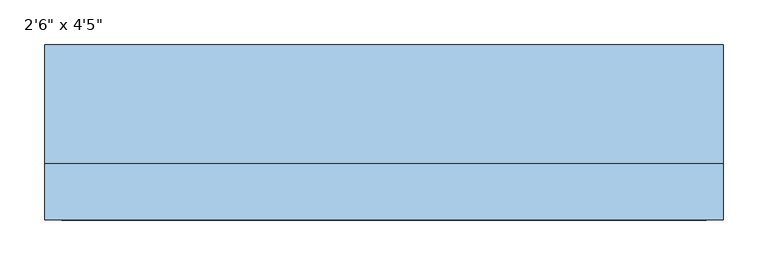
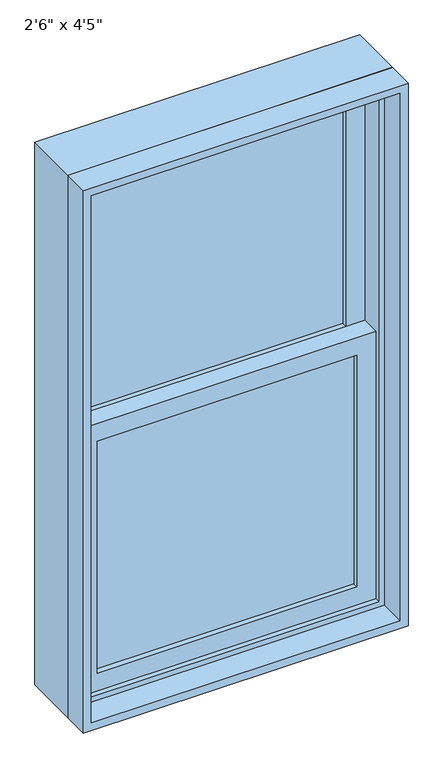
"""IFC4 building model written with IfcOpenShell, lengths in millimetres: window geometry."""

from ifc_helpers import new_model, si_unit, frame, origin, place, context, project, spatial, polyline, outline, extrude, source, transform, mapped, element, save


def window_a6173331(model_context):
    return source(origin(), model_context, "Body", "SweptSolid", [
        extrude(outline(polyline([(304.8, 19.05), (304.8, 12.7), (-304.8, 12.7), (-304.8, 19.05), (304.8, 19.05)])), frame((0.0, 0.0, 990.6), z_axis=(0.0, 0.0, 1.0), x_axis=(1.0, 0.0, 0.0)), (0.0, 0.0, 1.0), 574.675),
        extrude(outline(polyline([(-304.8, 6.35), (304.8, 6.35), (304.8, 0.0), (-304.8, 0.0), (-304.8, 6.35)])), frame((0.0, 0.0, 990.6), z_axis=(0.0, 0.0, 1.0), x_axis=(1.0, 0.0, 0.0)), (0.0, 0.0, 1.0), 574.675),
        extrude(outline(polyline([(304.8, 63.5), (304.8, 57.15), (-304.8, 57.15), (-304.8, 63.5), (304.8, 63.5)])), frame((0.0, 0.0, 1609.725), z_axis=(0.0, 0.0, 1.0), x_axis=(1.0, 0.0, 0.0)), (0.0, 0.0, 1.0), 574.675),
        extrude(outline(polyline([(-304.8, 50.8), (304.8, 50.8), (304.8, 44.45), (-304.8, 44.45), (-304.8, 50.8)])), frame((0.0, 0.0, 1609.725), z_axis=(0.0, 0.0, 1.0), x_axis=(1.0, 0.0, 0.0)), (0.0, 0.0, 1.0), 574.675),
        extrude(outline(polyline([(1609.725, -349.25), (946.15, -349.25), (946.15, 349.25), (1609.725, 349.25), (1609.725, -349.25)]), holes=[polyline([(1565.275, 304.8), (990.6, 304.8), (990.6, -304.8), (1565.275, -304.8), (1565.275, 304.8)])]), frame((0.0, -12.7, 0.0), z_axis=(0.0, 1.0, 0.0), x_axis=(0.0, 0.0, 1.0)), (0.0, 0.0, 1.0), 44.45),
        extrude(outline(polyline([(2228.85, -349.25), (1565.275, -349.25), (1565.275, 349.25), (2228.85, 349.25), (2228.85, -349.25)]), holes=[polyline([(2184.4, 304.8), (1609.725, 304.8), (1609.725, -304.8), (2184.4, -304.8), (2184.4, 304.8)])]), frame((0.0, 31.75, 0.0), z_axis=(0.0, 1.0, 0.0), x_axis=(0.0, 0.0, 1.0)), (0.0, 0.0, 1.0), 44.45),
        extrude(outline(polyline([(2260.6, -381.0), (914.4, -381.0), (914.4, 381.0), (2260.6, 381.0), (2260.6, -381.0)]), holes=[polyline([(2228.85, 349.25), (946.15, 349.25), (946.15, -349.25), (2228.85, -349.25), (2228.85, 349.25)])]), frame((0.0, -25.4, 0.0), z_axis=(0.0, 1.0, 0.0), x_axis=(0.0, 0.0, 1.0)), (0.0, 0.0, 1.0), 133.35),
        extrude(outline(polyline([(2260.6, 381.0), (2260.6, -381.0), (914.4, -381.0), (914.4, 381.0), (2260.6, 381.0)]), holes=[polyline([(2241.55, 361.95), (933.45, 361.95), (933.45, -361.95), (2241.55, -361.95), (2241.55, 361.95)])]), frame((0.0, -88.9, 0.0), z_axis=(0.0, 1.0, 0.0), x_axis=(0.0, 0.0, 1.0)), (0.0, 0.0, 1.0), 63.5),
    ])


if __name__ == "__main__":
    model = new_model("IFC4")
    model_context = context("Model", 3, world=origin())
    ifc_project = project(units=[si_unit("LENGTHUNIT", "METRE", prefix="MILLI")], contexts=[model_context])
    site = spatial("IfcSite", under=ifc_project)
    building = spatial("IfcBuilding", under=site)
    placement = place(None, origin())
    window_shape = window_a6173331(model_context)
    element("IfcWindow", 1, ObjectType="Planitar-Double-Hung-Single : 2'6\" x 4'5\"", at=placement, inside=building, context=model_context, shape_type="MappedRepresentation", body=[
        mapped(window_shape, transform((0.0, 0.0, 0.0), x_axis=(1.0, 0.0, 0.0), y_axis=(0.0, 1.0, 0.0), z_axis=(0.0, 0.0, 1.0))),
    ])
    save(model, "model.ifc")
